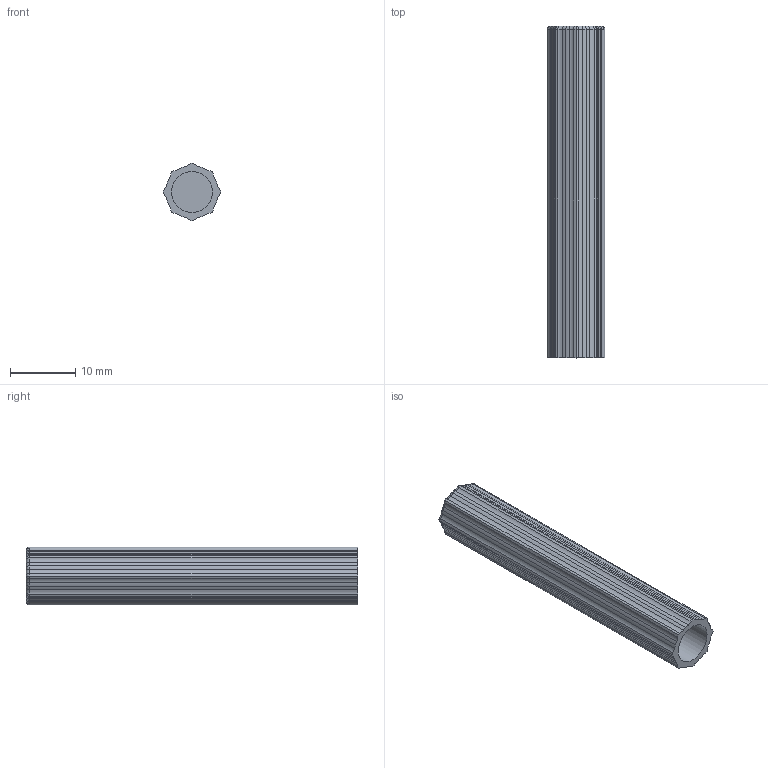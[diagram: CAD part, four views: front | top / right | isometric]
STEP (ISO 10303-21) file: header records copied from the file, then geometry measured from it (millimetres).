
FILE_DESCRIPTION(/* description */ (''),/* implementation_level */ '2;1');
FILE_NAME(/* name */ 'D:\Downloads\Project-ButWhatAbout-ECM-9x19-Barrel-DIY-V1-Package (3)\Revised Components\asdf\ECM CAD\STEP\Chambering Insulator Metric (6mm).stp',/* time_stamp */ '2021-02-15T01:39:57-06:00',/* author */ ('johne'),/* organization */ (''),/* preprocessor_version */ 'ST-DEVELOPER v18',/* originating_system */ 'Autodesk Inventor 2020',/* authorisation */ '');
FILE_SCHEMA (('AUTOMOTIVE_DESIGN { 1 0 10303 214 3 1 1 }'));
Length unit declared in the file: millimetre
Products named in the file (1): Chambering Insulator 6mm rod
Bounding box: 8.82 x 50.8 x 8.82 mm (x, y, z)
Volume: 1234.5 mm3; surface area: 2435.7 mm2
Topology: 1 solids, 1 shells, 100 faces, 259 edges, 162 vertices
Faces by surface type: cylinder 49, torus 32, plane 19
Full cylindrical faces by diameter (mm): 6.25 x1
Entity records: 3510 total; most frequent: CARTESIAN_POINT 970, DIRECTION 559, ORIENTED_EDGE 518, EDGE_CURVE 259, AXIS2_PLACEMENT_3D 223, VERTEX_POINT 162, CIRCLE 114, LINE 113
